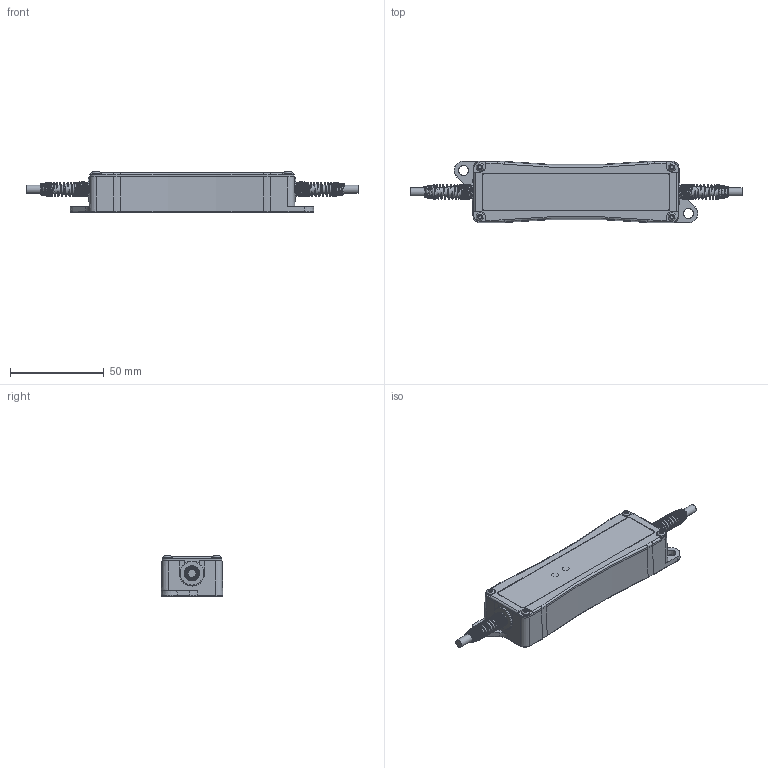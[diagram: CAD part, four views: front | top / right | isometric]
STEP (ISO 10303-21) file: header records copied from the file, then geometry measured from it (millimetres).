
FILE_DESCRIPTION(/* description */ ('Unknown'),/* implementation_level */ '2;1');
FILE_NAME(/* name */ 'DEEneo-ISC',/* time_stamp */ '2025-01-03T10:51:17+01:00',/* author */ ('Unknown'),/* organization */ ('Unknown'),/* preprocessor_version */ 'ST-DEVELOPER v19.4',/* originating_system */ 'Solid Edge',/* authorisation */ 'Unknown');
FILE_SCHEMA (('AUTOMOTIVE_DESIGN {1 0 10303 214 3 1 1}'));
Length unit declared in the file: millimetre
Products named in the file (1): DEEneo-ISC
Bounding box: 177.2 x 32.97 x 21.6 mm (x, y, z)
Volume: 1161.8 mm3; surface area: 21166.3 mm2
Topology: 2 solids, 28 shells, 541 faces, 1476 edges, 979 vertices
Faces by surface type: plane 194, cylinder 164, bspline 116, cone 33, torus 30, sphere 4
Full cylindrical faces by diameter (mm): 2.52 x4, 2.8 x1, 4.2 x4, 4.3 x2, 4.5 x2, 5.4 x2, 6.6 x2, 13 x2
Entity records: 31383 total; most frequent: CARTESIAN_POINT 18311, ORIENTED_EDGE 2638, DIRECTION 2462, EDGE_CURVE 1410, VERTEX_POINT 973, AXIS2_PLACEMENT_3D 896, LINE 670, VECTOR 670
